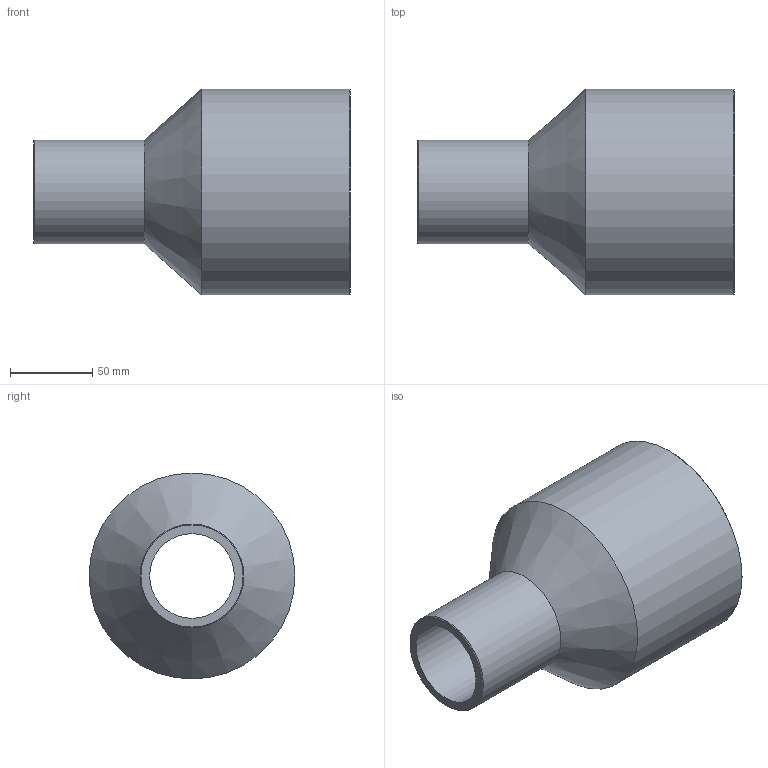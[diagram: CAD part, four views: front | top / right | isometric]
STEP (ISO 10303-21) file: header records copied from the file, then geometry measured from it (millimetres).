
FILE_DESCRIPTION(/* description */ ('Unknown'),/* implementation_level */ '2;1');
FILE_NAME(/* name */ 'RP125063C',/* time_stamp */ '2021-09-17T15:12:27+02:00',/* author */ ('Unknown'),/* organization */ ('Unknown'),/* preprocessor_version */ 'ST-DEVELOPER v16.7',/* originating_system */ 'Solid Edge',/* authorisation */ 'Unknown');
FILE_SCHEMA (('AUTOMOTIVE_DESIGN {1 0 10303 214 3 1 1}'));
Length unit declared in the file: millimetre
Products named in the file (1): RP125063C
Bounding box: 192 x 125 x 125 mm (x, y, z)
Volume: 559743.6 mm3; surface area: 116414.8 mm2
Topology: 1 solids, 1 shells, 10 faces, 19 edges, 11 vertices
Faces by surface type: cylinder 4, cone 4, plane 2
Full cylindrical faces by diameter (mm): 51.4 x1, 63 x1, 102.2 x1, 125 x1
Entity records: 238 total; most frequent: DIRECTION 42, CARTESIAN_POINT 31, AXIS2_PLACEMENT_3D 21, ORIENTED_EDGE 20, EDGE_LOOP 20, FACE_BOUND 20, EDGE_CURVE 10, VERTEX_POINT 10
